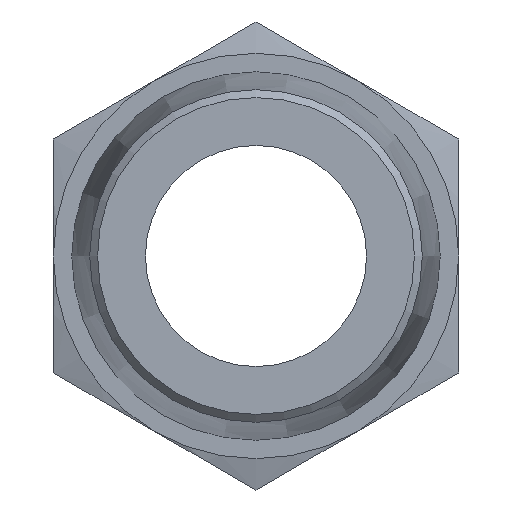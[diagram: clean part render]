
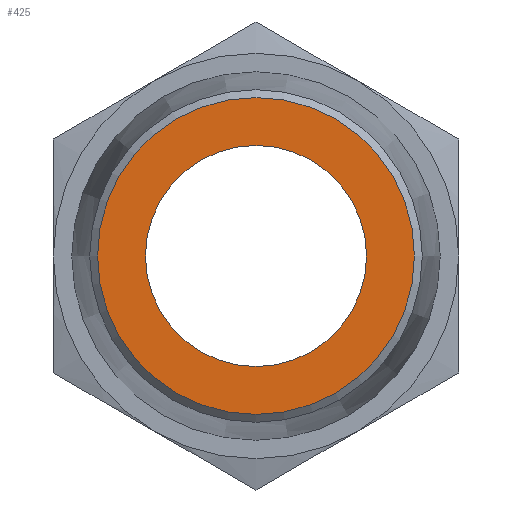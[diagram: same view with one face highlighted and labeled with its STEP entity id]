
A CAD part, front view. The second image highlights one B-rep face of the part: STEP entity #425.
In plain terms, the highlighted planar face has unit normal (0, -1, 0).
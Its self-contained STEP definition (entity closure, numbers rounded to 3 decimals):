
#43=FACE_BOUND('',#95,.T.);
#49=PLANE('',#483);
#63=FACE_OUTER_BOUND('',#94,.T.);
#94=EDGE_LOOP('',(#292));
#95=EDGE_LOOP('',(#293));
#157=CIRCLE('',#480,4.3);
#159=CIRCLE('',#484,3.);
#183=VERTEX_POINT('',#669);
#185=VERTEX_POINT('',#677);
#222=EDGE_CURVE('',#183,#183,#157,.T.);
#225=EDGE_CURVE('',#185,#185,#159,.T.);
#292=ORIENTED_EDGE('',*,*,#222,.F.);
#293=ORIENTED_EDGE('',*,*,#225,.T.);
#425=ADVANCED_FACE('',(#63,#43),#49,.T.);
#480=AXIS2_PLACEMENT_3D('',#671,#543,#544);
#483=AXIS2_PLACEMENT_3D('',#676,#550,#551);
#484=AXIS2_PLACEMENT_3D('',#678,#552,#553);
#543=DIRECTION('center_axis',(0.,1.,0.));
#544=DIRECTION('ref_axis',(-1.,0.,0.));
#550=DIRECTION('center_axis',(0.,-1.,0.));
#551=DIRECTION('ref_axis',(0.,0.,-1.));
#552=DIRECTION('center_axis',(0.,1.,0.));
#553=DIRECTION('ref_axis',(1.,0.,0.));
#669=CARTESIAN_POINT('',(4.3,-7.,0.));
#671=CARTESIAN_POINT('Origin',(0.,-7.,0.));
#676=CARTESIAN_POINT('Origin',(4.5,-7.,0.));
#677=CARTESIAN_POINT('',(-3.,-7.,0.));
#678=CARTESIAN_POINT('Origin',(0.,-7.,0.));
